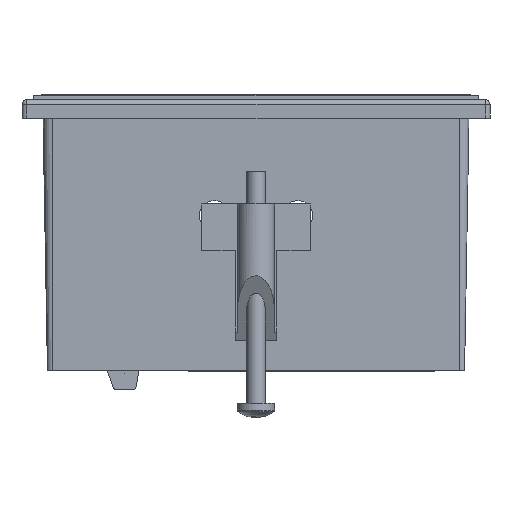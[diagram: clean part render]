
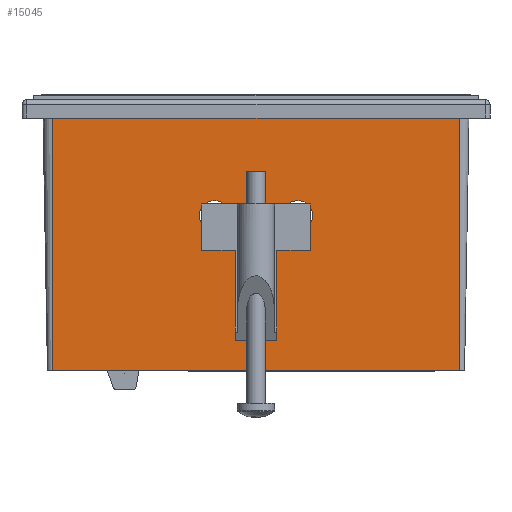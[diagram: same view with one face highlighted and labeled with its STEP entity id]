
A CAD part, left-side view. The second image highlights one B-rep face of the part: STEP entity #15045.
In plain terms, the highlighted planar face has unit normal (-1, 0, -0.018).
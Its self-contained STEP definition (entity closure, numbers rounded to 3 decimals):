
#1067 = VERTEX_POINT ( 'NONE', #42833 ) ;
#1628 = EDGE_CURVE ( 'NONE', #39638, #32921, #96633, .T. ) ;
#11738 = FACE_BOUND ( 'NONE', #187438, .T. ) ;
#14921 = CARTESIAN_POINT ( 'NONE',  ( -45.655, 9., -22.75 ) ) ;
#15045 = ADVANCED_FACE ( 'NONE', ( #163888, #11738, #120580 ), #151094, .T. ) ;
#21000 = DIRECTION ( 'NONE',  ( 0., 1., 0. ) ) ;
#25489 = ORIENTED_EDGE ( 'NONE', *, *, #192261, .F. ) ;
#25573 = CARTESIAN_POINT ( 'NONE',  ( -46., -44., -3. ) ) ;
#26312 = CARTESIAN_POINT ( 'NONE',  ( -45.542, -9., -29.25 ) ) ;
#27273 = CARTESIAN_POINT ( 'NONE',  ( -45.655, -9., -22.75 ) ) ;
#28582 =( BOUNDED_CURVE ( )  B_SPLINE_CURVE ( 3, ( #70082, #143266, #87023, #114753 ),
 .UNSPECIFIED., .F., .F. ) 
 B_SPLINE_CURVE_WITH_KNOTS ( ( 4, 4 ),
 ( 0., 3.142 ),
 .UNSPECIFIED. ) 
 CURVE ( )  GEOMETRIC_REPRESENTATION_ITEM ( )  RATIONAL_B_SPLINE_CURVE ( ( 1., 0.333, 0.333, 1. ) ) 
 REPRESENTATION_ITEM ( '' )  );
#28598 = DIRECTION ( 'NONE',  ( -1., 0., -0.017 ) ) ;
#31274 = CARTESIAN_POINT ( 'NONE',  ( -45.655, -9., -22.75 ) ) ;
#31861 = VERTEX_POINT ( 'NONE', #121775 ) ;
#32083 = CARTESIAN_POINT ( 'NONE',  ( -45.542, 15.5, -29.25 ) ) ;
#32921 = VERTEX_POINT ( 'NONE', #59313 ) ;
#39638 = VERTEX_POINT ( 'NONE', #117195 ) ;
#40094 = EDGE_CURVE ( 'NONE', #83843, #156460, #28582, .T. ) ;
#42833 = CARTESIAN_POINT ( 'NONE',  ( -45.014, -44., -59.5 ) ) ;
#46061 = VERTEX_POINT ( 'NONE', #121979 ) ;
#48835 =( BOUNDED_CURVE ( )  B_SPLINE_CURVE ( 3, ( #26312, #73728, #56978, #27273 ),
 .UNSPECIFIED., .F., .F. ) 
 B_SPLINE_CURVE_WITH_KNOTS ( ( 4, 4 ),
 ( 3.142, 6.283 ),
 .UNSPECIFIED. ) 
 CURVE ( )  GEOMETRIC_REPRESENTATION_ITEM ( )  RATIONAL_B_SPLINE_CURVE ( ( 1., 0.333, 0.333, 1. ) ) 
 REPRESENTATION_ITEM ( '' )  );
#51705 = CARTESIAN_POINT ( 'NONE',  ( -46., -44., -3. ) ) ;
#53158 = VECTOR ( 'NONE', #21000, 1000. ) ;
#54425 = ORIENTED_EDGE ( 'NONE', *, *, #134763, .T. ) ;
#55780 = DIRECTION ( 'NONE',  ( 0., 1., 0. ) ) ;
#56978 = CARTESIAN_POINT ( 'NONE',  ( -45.655, -15.5, -22.75 ) ) ;
#59313 = CARTESIAN_POINT ( 'NONE',  ( -46., 44., -3. ) ) ;
#62967 = ORIENTED_EDGE ( 'NONE', *, *, #75137, .T. ) ;
#65919 = DIRECTION ( 'NONE',  ( -0.017, 0., 1. ) ) ;
#69315 = EDGE_CURVE ( 'NONE', #31861, #46061, #176229, .T. ) ;
#70082 = CARTESIAN_POINT ( 'NONE',  ( -45.655, -9., -22.75 ) ) ;
#73728 = CARTESIAN_POINT ( 'NONE',  ( -45.542, -15.5, -29.25 ) ) ;
#75137 = EDGE_CURVE ( 'NONE', #181393, #32921, #84315, .T. ) ;
#75930 = ORIENTED_EDGE ( 'NONE', *, *, #166858, .F. ) ;
#83843 = VERTEX_POINT ( 'NONE', #31274 ) ;
#84315 = LINE ( 'NONE', #51705, #53158 ) ;
#87023 = CARTESIAN_POINT ( 'NONE',  ( -45.542, -2.5, -29.25 ) ) ;
#92531 = CARTESIAN_POINT ( 'NONE',  ( -45.655, 9., -22.75 ) ) ;
#92719 = EDGE_LOOP ( 'NONE', ( #162943, #25489 ) ) ;
#96633 = LINE ( 'NONE', #171478, #129191 ) ;
#98366 = CARTESIAN_POINT ( 'NONE',  ( -45.014, -44., -59.5 ) ) ;
#102825 = DIRECTION ( 'NONE',  ( -0.017, 0., 1. ) ) ;
#103166 =( BOUNDED_CURVE ( )  B_SPLINE_CURVE ( 3, ( #92531, #107377, #32083, #135943 ),
 .UNSPECIFIED., .F., .F. ) 
 B_SPLINE_CURVE_WITH_KNOTS ( ( 4, 4 ),
 ( 0., 3.142 ),
 .UNSPECIFIED. ) 
 CURVE ( )  GEOMETRIC_REPRESENTATION_ITEM ( )  RATIONAL_B_SPLINE_CURVE ( ( 1., 0.333, 0.333, 1. ) ) 
 REPRESENTATION_ITEM ( '' )  );
#103840 = ORIENTED_EDGE ( 'NONE', *, *, #1628, .F. ) ;
#104065 = EDGE_LOOP ( 'NONE', ( #62967, #103840, #173543, #54425 ) ) ;
#107377 = CARTESIAN_POINT ( 'NONE',  ( -45.655, 15.5, -22.75 ) ) ;
#114753 = CARTESIAN_POINT ( 'NONE',  ( -45.542, -9., -29.25 ) ) ;
#117195 = CARTESIAN_POINT ( 'NONE',  ( -45.014, 44., -59.5 ) ) ;
#119870 = CARTESIAN_POINT ( 'NONE',  ( -45.542, 9., -29.25 ) ) ;
#120580 = FACE_BOUND ( 'NONE', #92719, .T. ) ;
#121775 = CARTESIAN_POINT ( 'NONE',  ( -45.542, 9., -29.25 ) ) ;
#121979 = CARTESIAN_POINT ( 'NONE',  ( -45.655, 9., -22.75 ) ) ;
#125010 = VECTOR ( 'NONE', #55780, 1000. ) ;
#125732 = CARTESIAN_POINT ( 'NONE',  ( -46., -44., -3. ) ) ;
#127382 = VECTOR ( 'NONE', #185798, 1000. ) ;
#129191 = VECTOR ( 'NONE', #65919, 1000. ) ;
#133428 = CARTESIAN_POINT ( 'NONE',  ( -46., -44., -3. ) ) ;
#134763 = EDGE_CURVE ( 'NONE', #1067, #181393, #189684, .T. ) ;
#135943 = CARTESIAN_POINT ( 'NONE',  ( -45.542, 9., -29.25 ) ) ;
#143266 = CARTESIAN_POINT ( 'NONE',  ( -45.655, -2.5, -22.75 ) ) ;
#151094 = PLANE ( 'NONE',  #156233 ) ;
#153261 = CARTESIAN_POINT ( 'NONE',  ( -45.655, 2.5, -22.75 ) ) ;
#156233 = AXIS2_PLACEMENT_3D ( 'NONE', #133428, #28598, #102825 ) ;
#156460 = VERTEX_POINT ( 'NONE', #160496 ) ;
#157222 = ORIENTED_EDGE ( 'NONE', *, *, #69315, .F. ) ;
#160496 = CARTESIAN_POINT ( 'NONE',  ( -45.542, -9., -29.25 ) ) ;
#162943 = ORIENTED_EDGE ( 'NONE', *, *, #40094, .F. ) ;
#163888 = FACE_OUTER_BOUND ( 'NONE', #104065, .T. ) ;
#166858 = EDGE_CURVE ( 'NONE', #46061, #31861, #103166, .T. ) ;
#171478 = CARTESIAN_POINT ( 'NONE',  ( -46., 44., -3. ) ) ;
#173543 = ORIENTED_EDGE ( 'NONE', *, *, #187918, .F. ) ;
#176229 =( BOUNDED_CURVE ( )  B_SPLINE_CURVE ( 3, ( #119870, #179882, #153261, #14921 ),
 .UNSPECIFIED., .F., .F. ) 
 B_SPLINE_CURVE_WITH_KNOTS ( ( 4, 4 ),
 ( 3.142, 6.283 ),
 .UNSPECIFIED. ) 
 CURVE ( )  GEOMETRIC_REPRESENTATION_ITEM ( )  RATIONAL_B_SPLINE_CURVE ( ( 1., 0.333, 0.333, 1. ) ) 
 REPRESENTATION_ITEM ( '' )  );
#179882 = CARTESIAN_POINT ( 'NONE',  ( -45.542, 2.5, -29.25 ) ) ;
#181393 = VERTEX_POINT ( 'NONE', #25573 ) ;
#185798 = DIRECTION ( 'NONE',  ( -0.017, 0., 1. ) ) ;
#187438 = EDGE_LOOP ( 'NONE', ( #75930, #157222 ) ) ;
#187918 = EDGE_CURVE ( 'NONE', #1067, #39638, #190923, .T. ) ;
#189684 = LINE ( 'NONE', #125732, #127382 ) ;
#190923 = LINE ( 'NONE', #98366, #125010 ) ;
#192261 = EDGE_CURVE ( 'NONE', #156460, #83843, #48835, .T. ) ;
